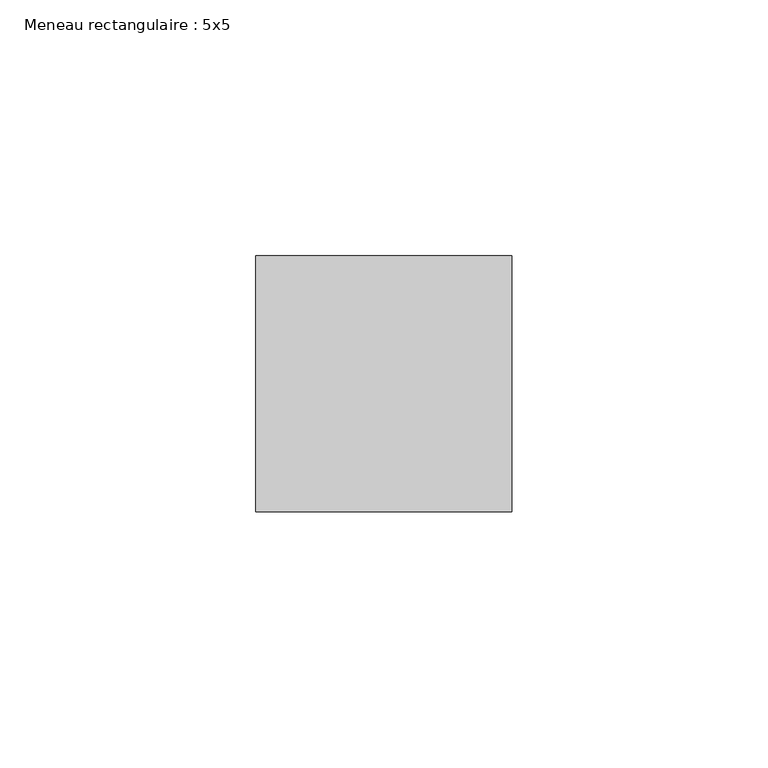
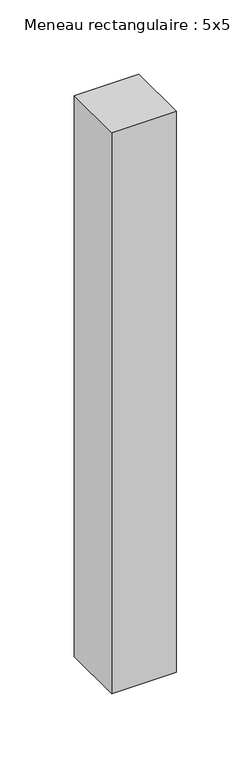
"""IFC4 building model written with IfcOpenShell, lengths in millimetres: member geometry, Meneau rectangulaire : 5x5."""

from ifc_helpers import new_model, si_unit, frame, origin, place, context, project, spatial, polyline, outline, extrude, source, transform, mapped, element, save


def meneau_rectangulaire_5x5_967ff6a6(model_context):
    return source(origin(), model_context, "Body", "SweptSolid", [
        extrude(outline(polyline([(0.0, 25.0), (0.0, -25.0), (-50.0, -25.0), (-50.0, 25.0), (0.0, 25.0)])), frame((0.0, 0.0, -460.0), z_axis=(0.0, 0.0, 1.0), x_axis=(1.0, 0.0, 0.0)), (0.0, 0.0, 1.0), 460.0),
    ])


if __name__ == "__main__":
    model = new_model("IFC4")
    model_context = context("Model", 3, world=origin())
    ifc_project = project(units=[si_unit("LENGTHUNIT", "METRE", prefix="MILLI")], contexts=[model_context])
    site = spatial("IfcSite", under=ifc_project)
    building = spatial("IfcBuilding", under=site)
    placement = place(None, origin())
    meneau_rectangulaire_5x5_shape = meneau_rectangulaire_5x5_967ff6a6(model_context)
    element("IfcMember", 1, ObjectType="Meneau rectangulaire : 5x5", at=placement, inside=building, context=model_context, shape_type="MappedRepresentation", body=[
        mapped(meneau_rectangulaire_5x5_shape, transform((0.0, 0.0, 0.0), x_axis=(1.0, 0.0, 0.0), y_axis=(0.0, 1.0, 0.0), z_axis=(0.0, 0.0, 1.0))),
    ])
    save(model, "model.ifc")
